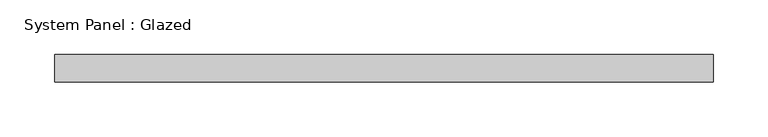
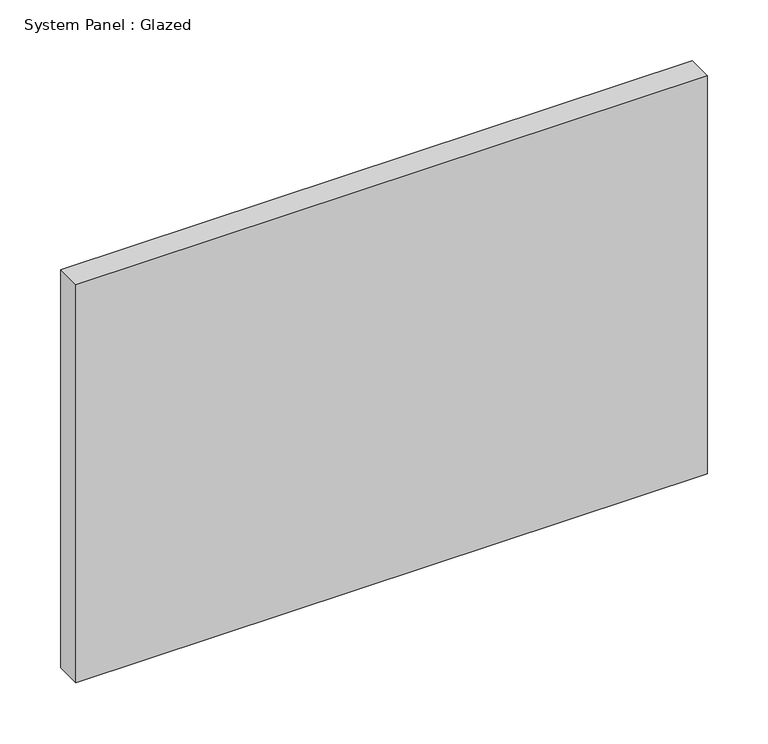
"""IFC4 building model written with IfcOpenShell, lengths in millimetres: plate geometry, System Panel : Glazed."""

from ifc_helpers import new_model, si_unit, origin, origin_with_axes, place, context, project, spatial, polyline, outline, extrude, source, transform, mapped, element, save


def system_panel_glazed_1a6db426(model_context):
    return source(origin(), model_context, "Body", "SweptSolid", [
        extrude(outline(polyline([(299.9999999, 24.5), (-299.9999999, 24.5), (-299.9999999, 49.5), (299.9999999, 49.5), (299.9999999, 24.5)])), origin_with_axes(), (0.0, 0.0, 1.0), 400.0),
    ])


if __name__ == "__main__":
    model = new_model("IFC4")
    model_context = context("Model", 3, world=origin())
    ifc_project = project(units=[si_unit("LENGTHUNIT", "METRE", prefix="MILLI")], contexts=[model_context])
    site = spatial("IfcSite", under=ifc_project)
    building = spatial("IfcBuilding", under=site)
    placement = place(None, origin())
    system_panel_glazed_shape = system_panel_glazed_1a6db426(model_context)
    element("IfcPlate", 1, ObjectType="System Panel : Glazed", at=placement, inside=building, context=model_context, shape_type="MappedRepresentation", body=[
        mapped(system_panel_glazed_shape, transform((0.0, 0.0, 0.0), x_axis=(1.0, 0.0, 0.0), y_axis=(0.0, 1.0, 0.0), z_axis=(0.0, 0.0, 1.0))),
    ])
    save(model, "model.ifc")
